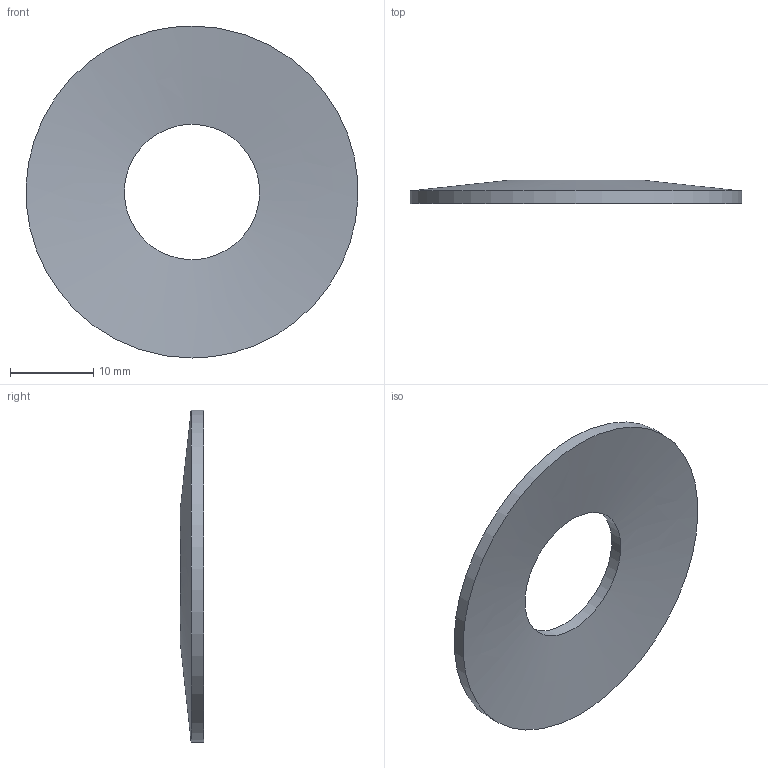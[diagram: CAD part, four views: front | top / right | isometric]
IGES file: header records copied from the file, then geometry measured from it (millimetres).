
Global section: file name: ST.0400.0163.0150; native system: Autodesk Inventor 2026; preprocessor: unknown; author: J. Iwanek; date: 20260918.103022; units: millimetre
Bounding box: 39.97 x 2.8 x 40 mm (x, y, z)
Volume: 1581.8 mm3; surface area: 2376.1 mm2
Topology: 1 solids, 1 shells, 4 faces, 12 edges, 8 vertices
Faces by surface type: bspline 4
